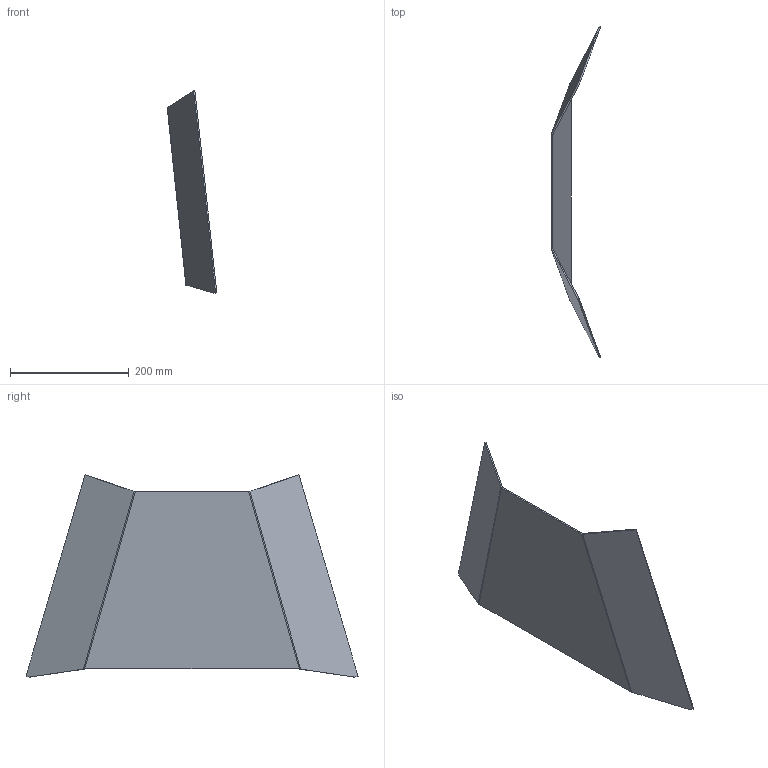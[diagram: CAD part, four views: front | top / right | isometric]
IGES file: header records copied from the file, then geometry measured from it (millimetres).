
Start section: START RECORD GO HERE.
Global section: file name: MS_04002 (Upper part).igs; native system: IBM CATIA IGES - CATIA Version 5 Release 19 ; preprocessor: CATIA Version 5 Release 19 ; author: Pablo Lamadrid; organization: DESKTOP-QLPPBTB; date: 20211019.152122; units: millimetre
Bounding box: 83.6 x 559.41 x 340.94 mm (x, y, z)
Surface area: 304717.9 mm2 (no closed solid volume)
Topology: 0 solids, 0 shells, 24 faces, 104 edges, 111 vertices
Faces by surface type: plane 18, revolution 4, bspline 2
